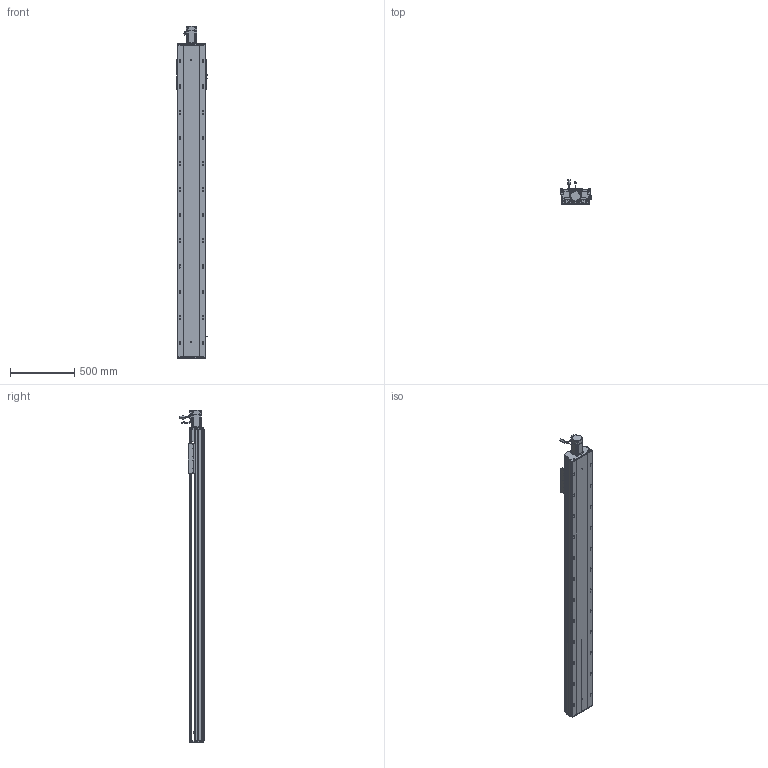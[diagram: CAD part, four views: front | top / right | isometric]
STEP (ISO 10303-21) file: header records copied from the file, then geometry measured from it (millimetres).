
FILE_DESCRIPTION (( 'STEP AP203' ), '1' );
FILE_NAME ('RY220-L2525-800-MK-邧嶺.SLDASM_2000.step', '2022-08-06T08:58:35', ( '' ), ( '' ), 'SwSTEP 2.0', 'SolidWorks 2016', '' );
FILE_SCHEMA (( 'CONFIG_CONTROL_DESIGN' ));
Length unit declared in the file: millimetre
Products named in the file (12): RY220半封闭25-32螺母铝滑块; 滅袉蝶18-12; RY220綴裔啣; RY220菁釱MK-800-邧嶺_2000; RY220-俋离672覜茼んえ; 滅袉蝶18-15; 覜茼ん672; 怢湛750W_ECMA-CX0807ES; RY220-L2525-800-MK-邧嶺.SLDASM_2000; RY220电机支撑座FK20（PCD90M6）; RY220ヶ裔啣; RY220-800-奻裔啣-MK_2000
Assembly tree (15 placements, depth 2):
  RY220-L2525-800-MK-邧嶺.SLDASM_2000
    RY220菁釱MK-800-邧嶺_2000
    RY220电机支撑座FK20（PCD90M6）
    怢湛750W_ECMA-CX0807ES
    滅袉蝶18-12  x2
    RY220ヶ裔啣
    RY220綴裔啣
    覜茼ん672  x3
    RY220半封闭25-32螺母铝滑块
    RY220-800-奻裔啣-MK_2000
    RY220-俋离672覜茼んえ
    滅袉蝶18-15  x2
Bounding box: 238.7 x 187.27 x 2590.3 mm (x, y, z)
Volume: 19022844 mm3; surface area: 5604528 mm2
Topology: 16 solids, 16 shells, 2432 faces, 6750 edges, 4226 vertices
Faces by surface type: cylinder 1138, plane 915, cone 317, bspline 36, sphere 16, torus 10
Entity records: 80120 total; most frequent: CARTESIAN_POINT 22575, ORIENTED_EDGE 11904, DIRECTION 11419, EDGE_CURVE 5952, AXIS2_PLACEMENT_3D 4073, VERTEX_POINT 3882, LINE 3273, VECTOR 3273
